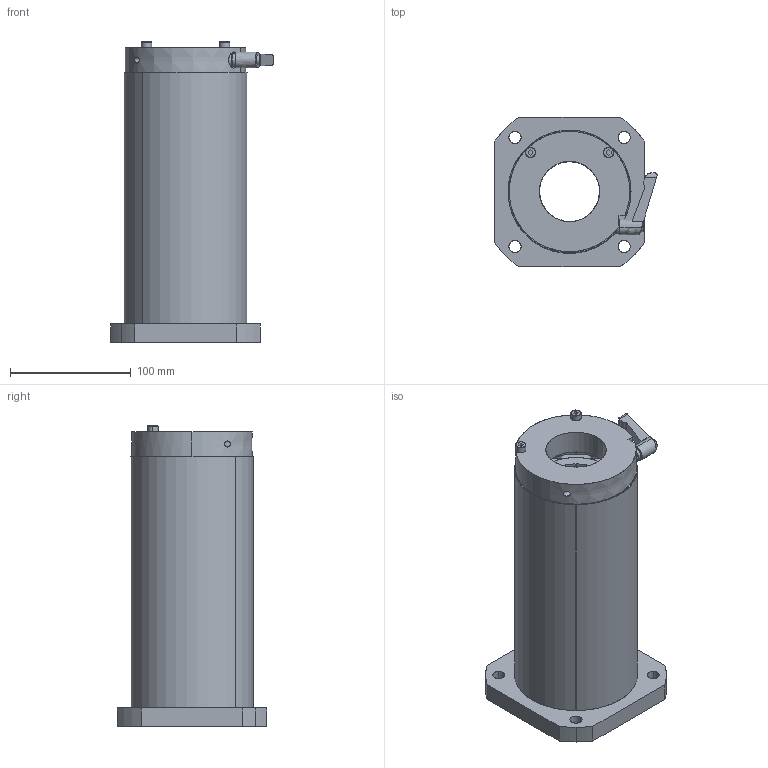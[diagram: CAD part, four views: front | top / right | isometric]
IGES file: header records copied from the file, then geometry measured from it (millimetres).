
Start section: SolidWorks IGES file using analytic representation for surfaces
Global section: file name: C:\Users\yamad\Desktop\IGES\LFWK50-C.IGS; native system: SolidWorks 2019; preprocessor: SolidWorks 2019; author: yamad; date: 230626.165457; units: millimetre
Bounding box: 134.7 x 124 x 249 mm (x, y, z)
Surface area: 183791 mm2 (no closed solid volume)
Topology: 0 solids, 0 shells, 191 faces, 5121 edges, 5121 vertices
Faces by surface type: bspline 100, revolution 91
